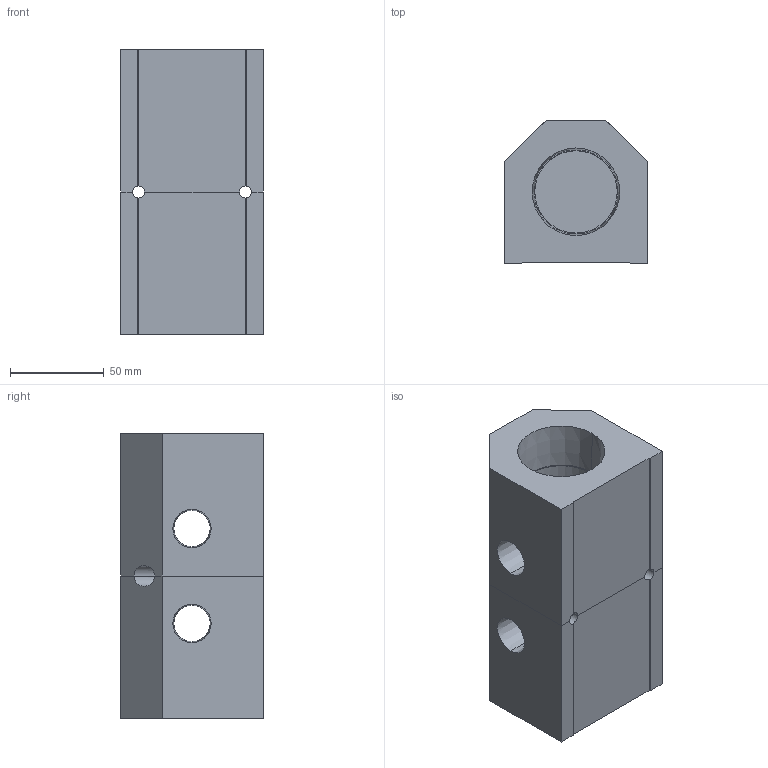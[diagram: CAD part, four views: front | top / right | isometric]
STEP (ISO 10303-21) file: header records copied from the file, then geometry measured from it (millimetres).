
FILE_DESCRIPTION (( 'STEP AP214' ), '1' );
FILE_NAME ('ALM2ACE-N8N24-152RB.step', '2022-02-07T09:39:25', ( '' ), ( '' ), 'SwSTEP 2.0', 'SolidWorks 2020', '' );
FILE_SCHEMA (( 'AUTOMOTIVE_DESIGN' ));
Length unit declared in the file: millimetre
Products named in the file (1): ALM2ACE-N8N24-152RB
Bounding box: 76.2 x 76.2 x 152 mm (x, y, z)
Volume: 532108.1 mm3; surface area: 87958.6 mm2
Topology: 2 solids, 2 shells, 348 faces, 923 edges, 612 vertices
Faces by surface type: plane 246, bspline 70, cylinder 16, cone 16
Entity records: 18816 total; most frequent: CARTESIAN_POINT 7414, ORIENTED_EDGE 1846, DIRECTION 1367, EDGE_CURVE 923, LINE 713, VECTOR 713, VERTEX_POINT 612, EDGE_LOOP 393
